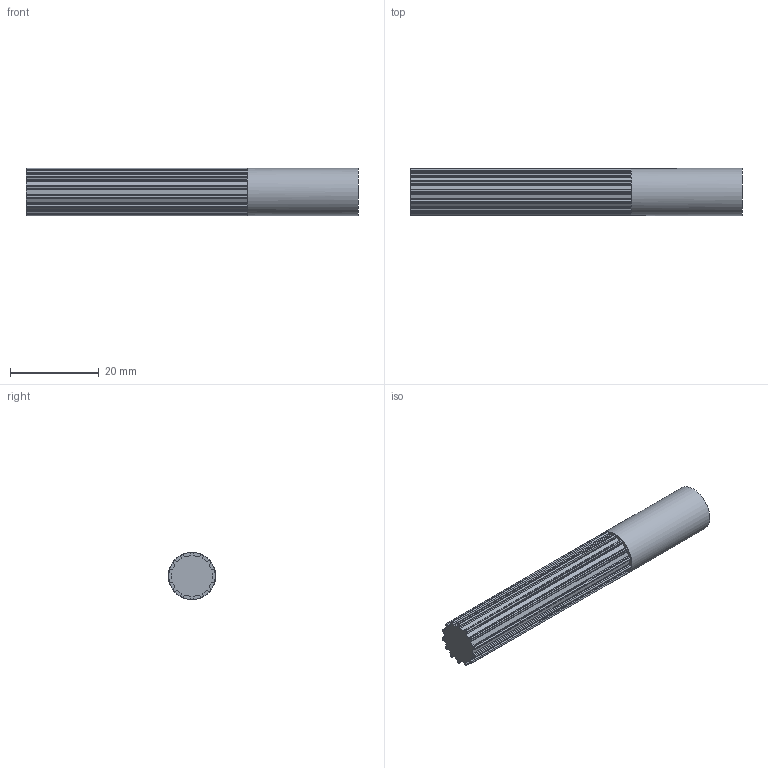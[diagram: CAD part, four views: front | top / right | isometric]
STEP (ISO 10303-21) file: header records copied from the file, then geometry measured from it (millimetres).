
FILE_DESCRIPTION( ( 'STEP AP214' ), '1' );
FILE_NAME( 'C:/Users/StangenbergN/Documents/CAD_Step/1/16091400.stp', '2019-07-25T19:40:46', ( '' ), ( '' ), ' ', 'PARTsolutions', ' ' );
FILE_SCHEMA( ( 'AUTOMOTIVE_DESIGN { 1 0 10303 214 1 1 1 1 }' ) );
Length unit declared in the file: millimetre
Products named in the file (1): _16091400
Bounding box: 75 x 10.64 x 10.64 mm (x, y, z)
Volume: 5882.5 mm3; surface area: 3170.4 mm2
Topology: 1 solids, 1 shells, 115 faces, 339 edges, 226 vertices
Faces by surface type: plane 58, cylinder 57
Full cylindrical faces by diameter (mm): 10.64 x1
Entity records: 4816 total; most frequent: DIRECTION 710, CARTESIAN_POINT 678, ORIENTED_EDGE 674, EDGE_CURVE 337, AXIS2_PLACEMENT_3D 257, VERTEX_POINT 225, LINE 196, VECTOR 196
